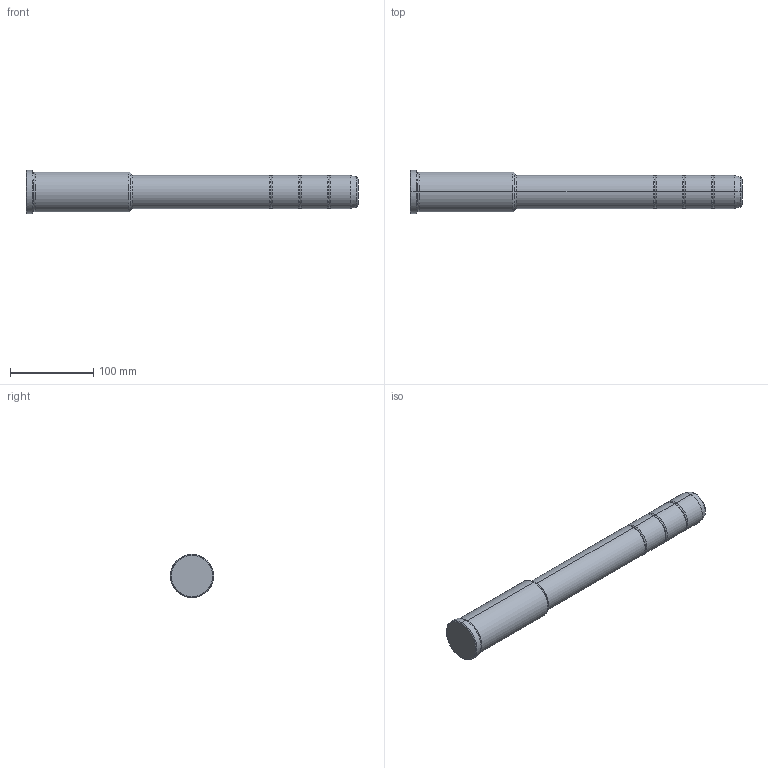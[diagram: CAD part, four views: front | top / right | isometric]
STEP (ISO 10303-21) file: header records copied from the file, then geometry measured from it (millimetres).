
FILE_DESCRIPTION(('CATIA V5 STEP Exchange'),'2;1');
FILE_NAME('C:\Users\Utente\Desktop\IO LAVORO\3D X SITO CF\X SITO\PLASTICA\351\351-40X126X400.stp','2021-11-03T19:17:26+00:00',('none'),('none'),'CATIA Version 5 Release 20 GA (IN-10)','CATIA V5 STEP AP203','none');
FILE_SCHEMA(('CONFIG_CONTROL_DESIGN'));
Length unit declared in the file: millimetre
Products named in the file (1): 351-40X126X400
Bounding box: 400 x 52 x 52 mm (x, y, z)
Volume: 572385.5 mm3; surface area: 57315.8 mm2
Topology: 1 solids, 1 shells, 42 faces, 118 edges, 80 vertices
Faces by surface type: torus 20, cylinder 12, cone 6, plane 4
Entity records: 1472 total; most frequent: CARTESIAN_POINT 353, ORIENTED_EDGE 236, DIRECTION 194, AXIS2_PLACEMENT_3D 135, EDGE_CURVE 118, CIRCLE 92, VERTEX_POINT 80, EDGE_LOOP 44
